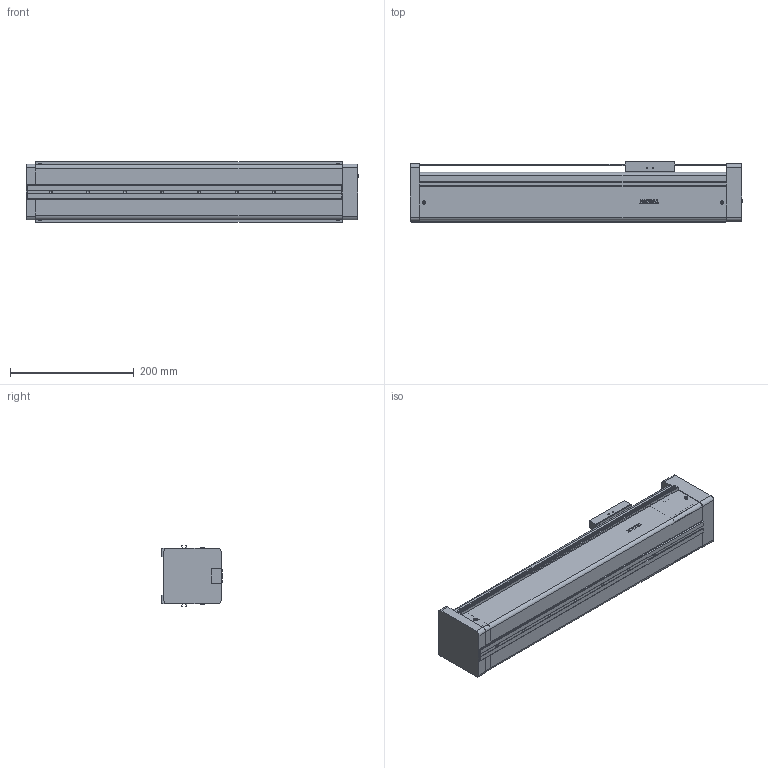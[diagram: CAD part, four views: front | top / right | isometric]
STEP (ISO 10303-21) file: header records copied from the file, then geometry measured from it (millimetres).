
FILE_DESCRIPTION(/* description */ (''),/* implementation_level */ '2;1');
FILE_NAME(/* name */ 'D:\混合母檔20191031\混和母檔\混和母檔\bin\Debug\Download\3D\KE905C-300AF0\KE905C-300AF0.stp',/* time_stamp */ '2019-11-04T14:16:53+08:00',/* author */ ('user'),/* organization */ (''),/* preprocessor_version */ 'ST-DEVELOPER v16.13',/* originating_system */ 'Autodesk Inventor 2018',/* authorisation */ '');
FILE_SCHEMA (('AUTOMOTIVE_DESIGN { 1 0 10303 214 3 1 1 }'));
Length unit declared in the file: millimetre
Products named in the file (3): KE905C-300AF0; KE90-F0-BP; KE90-SL
Assembly tree (2 placements, depth 2):
  KE905C-300AF0
    KE90-F0-BP
    KE90-SL
Bounding box: 536 x 98 x 98.4 mm (x, y, z)
Volume: 3729963.4 mm3; surface area: 362726.3 mm2
Topology: 3 solids, 22 shells, 875 faces, 2317 edges, 1529 vertices
Faces by surface type: plane 494, bspline 136, cone 117, cylinder 80, torus 40, sphere 8
Full cylindrical faces by diameter (mm): 2.5 x16, 3 x2, 3.3 x4, 4.2 x4, 4.5 x6, 4.917 x7, 5 x9, 8 x7, 46 x1, 50 x1
Entity records: 30568 total; most frequent: CARTESIAN_POINT 9562, ORIENTED_EDGE 4362, DIRECTION 3845, EDGE_CURVE 2181, VERTEX_POINT 1491, AXIS2_PLACEMENT_3D 1300, LINE 1245, VECTOR 1245
